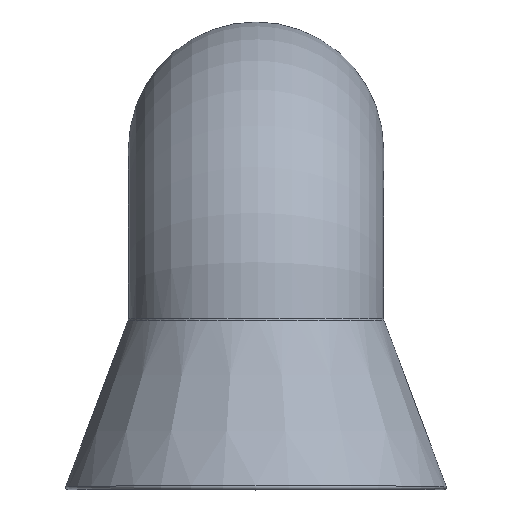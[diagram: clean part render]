
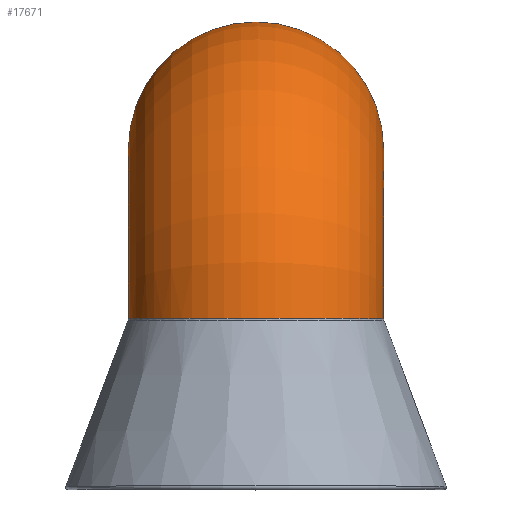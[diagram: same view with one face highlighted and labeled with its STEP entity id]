
A CAD part, top view. The second image highlights one B-rep face of the part: STEP entity #17671.
In plain terms, the highlighted toroidal (fillet/blend) face has major radius 50.8 mm and minor radius 38.1 mm.
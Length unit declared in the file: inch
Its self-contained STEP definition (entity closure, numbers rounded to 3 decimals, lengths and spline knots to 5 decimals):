
#20=TOROIDAL_SURFACE('',#19131,2.,1.5);
#1313=CIRCLE('',#19093,1.5);
#1314=CIRCLE('',#19094,1.5);
#1330=CIRCLE('',#19132,0.5);
#2655=FACE_OUTER_BOUND('',#3850,.T.);
#3850=EDGE_LOOP('',(#16257,#16258,#16259,#16260,#16261,#16262));
#6060=B_SPLINE_CURVE_WITH_KNOTS('',3,(#46388,#46389,#46390,#46391,#46392,
#46393,#46394,#46395,#46396,#46397,#46398,#46399,#46400,#46401,#46402,#46403,
#46404,#46405),.UNSPECIFIED.,.F.,.F.,(4,1,1,1,1,1,1,1,1,1,1,1,1,1,1,4),
(-6.28319,-5.83439,-5.38559,-4.93679,
-4.48799,-4.18879,-3.88959,-3.59039,
-3.29119,-2.99199,-2.69279,-2.39359,
-2.0944,-1.7952,-1.6456,-1.5708),
 .UNSPECIFIED.);
#6061=B_SPLINE_CURVE_WITH_KNOTS('',3,(#46406,#46407,#46408,#46409,#46410,
#46411,#46412),.UNSPECIFIED.,.F.,.F.,(4,1,1,1,4),(-1.5708,-1.496,
-0.8976,-0.4488,0.),.UNSPECIFIED.);
#7172=VERTEX_POINT('',#46385);
#7173=VERTEX_POINT('',#46387);
#7978=VERTEX_POINT('',#57235);
#7979=VERTEX_POINT('',#57236);
#9133=EDGE_CURVE('',#7172,#7173,#6060,.T.);
#9134=EDGE_CURVE('',#7173,#7172,#6061,.T.);
#10648=EDGE_CURVE('',#7978,#7979,#1313,.T.);
#10650=EDGE_CURVE('',#7979,#7978,#1314,.T.);
#10812=EDGE_CURVE('',#7173,#7979,#1330,.T.);
#16257=ORIENTED_EDGE('',*,*,#9133,.F.);
#16258=ORIENTED_EDGE('',*,*,#9134,.F.);
#16259=ORIENTED_EDGE('',*,*,#10812,.T.);
#16260=ORIENTED_EDGE('',*,*,#10650,.T.);
#16261=ORIENTED_EDGE('',*,*,#10648,.T.);
#16262=ORIENTED_EDGE('',*,*,#10812,.F.);
#17671=ADVANCED_FACE('',(#2655),#20,.T.);
#19093=AXIS2_PLACEMENT_3D('',#57237,#22583,#22584);
#19094=AXIS2_PLACEMENT_3D('',#57239,#22586,#22587);
#19131=AXIS2_PLACEMENT_3D('',#60888,#22711,#22712);
#19132=AXIS2_PLACEMENT_3D('',#60889,#22713,#22714);
#22583=DIRECTION('center_axis',(0.,0.,1.));
#22584=DIRECTION('ref_axis',(1.,0.,0.));
#22586=DIRECTION('center_axis',(0.,0.,1.));
#22587=DIRECTION('ref_axis',(1.,0.,0.));
#22711=DIRECTION('center_axis',(1.,0.,0.));
#22712=DIRECTION('ref_axis',(0.,0.,-1.));
#22713=DIRECTION('center_axis',(-1.,0.,0.));
#22714=DIRECTION('ref_axis',(0.,0.,-1.));
#46385=CARTESIAN_POINT('',(1.5,-1.99,5.));
#46387=CARTESIAN_POINT('',(0.00004,-1.99,3.49978));
#46388=CARTESIAN_POINT('Ctrl Pts',(1.5,-1.99,5.));
#46389=CARTESIAN_POINT('Ctrl Pts',(1.5,-1.99,5.2244));
#46390=CARTESIAN_POINT('Ctrl Pts',(1.39765,-1.99,5.67307));
#46391=CARTESIAN_POINT('Ctrl Pts',(0.96721,-1.99,
6.2128));
#46392=CARTESIAN_POINT('Ctrl Pts',(0.34515,-1.99,
6.51238));
#46393=CARTESIAN_POINT('Ctrl Pts',(-0.26842,-1.99,
6.51231));
#46394=CARTESIAN_POINT('Ctrl Pts',(-0.76128,-1.99,
6.31851));
#46395=CARTESIAN_POINT('Ctrl Pts',(-1.11611,-1.99,
6.03563));
#46396=CARTESIAN_POINT('Ctrl Pts',(-1.37176,-1.99,5.66059));
#46397=CARTESIAN_POINT('Ctrl Pts',(-1.50558,-1.99,5.22693));
#46398=CARTESIAN_POINT('Ctrl Pts',(-1.50553,-1.99,
4.77307));
#46399=CARTESIAN_POINT('Ctrl Pts',(-1.37183,-1.99,4.33937));
#46400=CARTESIAN_POINT('Ctrl Pts',(-1.11613,-1.99,
3.96435));
#46401=CARTESIAN_POINT('Ctrl Pts',(-0.76132,-1.99,
3.68142));
#46402=CARTESIAN_POINT('Ctrl Pts',(-0.4092,-1.99,
3.54309));
#46403=CARTESIAN_POINT('Ctrl Pts',(-0.14963,-1.99,
3.50417));
#46404=CARTESIAN_POINT('Ctrl Pts',(-0.03737,-1.99,
3.49982));
#46405=CARTESIAN_POINT('Ctrl Pts',(0.00004,-1.99,
3.49978));
#46406=CARTESIAN_POINT('Ctrl Pts',(0.00004,-1.99,
3.49978));
#46407=CARTESIAN_POINT('Ctrl Pts',(0.03746,-1.99,
3.49973));
#46408=CARTESIAN_POINT('Ctrl Pts',(0.37418,-1.99,
3.51197));
#46409=CARTESIAN_POINT('Ctrl Pts',(0.91959,-1.99,3.7264));
#46410=CARTESIAN_POINT('Ctrl Pts',(1.39757,-1.99,4.32735));
#46411=CARTESIAN_POINT('Ctrl Pts',(1.5,-1.99,4.7756));
#46412=CARTESIAN_POINT('Ctrl Pts',(1.5,-1.99,5.));
#57235=CARTESIAN_POINT('',(-1.5,0.,3.));
#57236=CARTESIAN_POINT('',(0.,-1.5,3.));
#57237=CARTESIAN_POINT('Origin',(0.,0.,3.));
#57239=CARTESIAN_POINT('Origin',(0.,0.,3.));
#60888=CARTESIAN_POINT('Origin',(0.,-2.,3.));
#60889=CARTESIAN_POINT('Origin',(0.,-2.,
3.));
